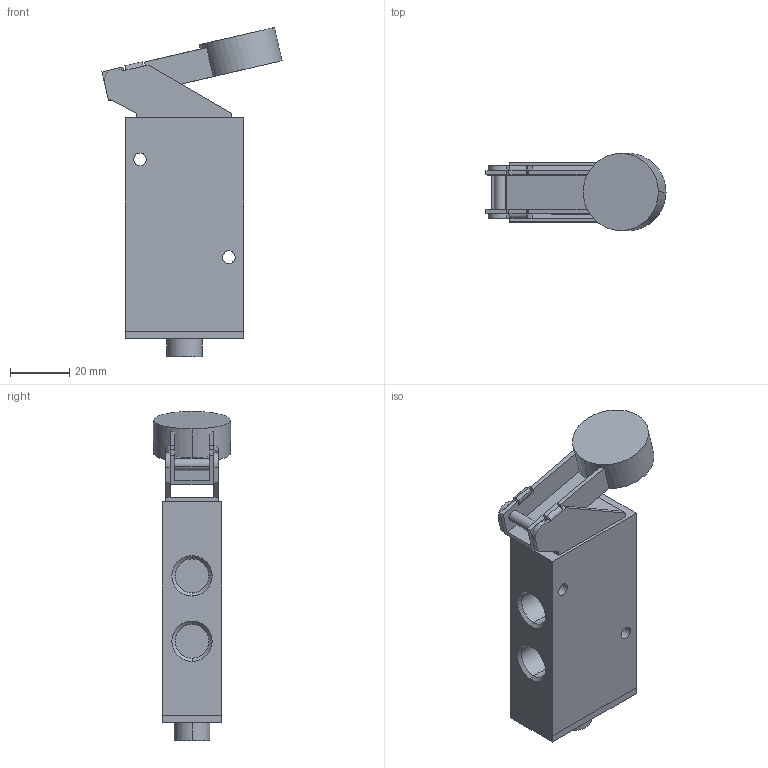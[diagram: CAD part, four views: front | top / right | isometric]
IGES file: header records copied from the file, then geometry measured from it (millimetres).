
Global section: file name: No Iges File Name specified; native system: AutoDesk Inventor R11.0; preprocessor: AutoDesk Inventor Iges Exporter R11.0; author: No Author specified; organization: No Organization specified; date: 20061219.114630; units: millimetre
Bounding box: 60.71 x 26 x 110.96 mm (x, y, z)
Volume: 64045.4 mm3; surface area: 20751.5 mm2
Topology: 3 solids, 3 shells, 111 faces, 258 edges, 164 vertices
Faces by surface type: plane 59, bspline 37, cylinder 10, revolution 5
